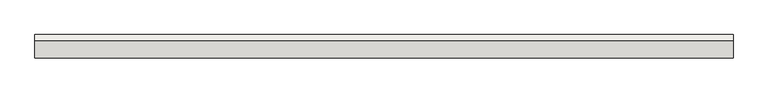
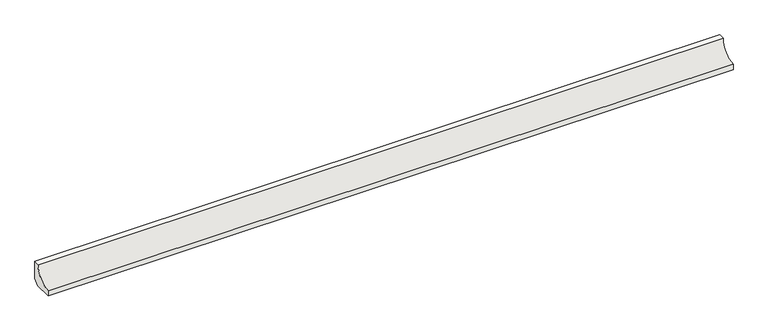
"""IFC4 building model written with IfcOpenShell, lengths in millimetres: slab geometry, ROSA GRES_188 : Pieza 188_Serena_Ocra_Anti-Slip."""

from ifc_helpers import new_model, si_unit, point, frame, frame_2d, origin, place, context, project, spatial, polyline, circle_curve, trimmed, segment, composite_curve, outline, extrude, source, transform, mapped, element, save


def slab_60c810ee(model_context):
    return source(origin(), model_context, "Body", "SweptSolid", [
        extrude(outline(composite_curve([segment(polyline([(0.0, 8.7114978), (-8.7114978, 0.0), (-40.0, 0.0), (-40.0, 9.9734114)]), True, "CONTINUOUS"), segment(trimmed(circle_curve(frame_2d((-39.9955547, 39.9955547)), 30.0221435), [point((-40.0, 9.9734114))], [point((-9.9734114, 40.0))], True, "CARTESIAN"), True, "CONTINUOUS"), segment(polyline([(-9.9734114, 40.0), (0.0, 40.0), (0.0, 8.7114978)]), True, "CONTINUOUS")], self_intersect=False)), frame((0.0, 0.0, 0.0), z_axis=(1.0, 0.0, 0.0), x_axis=(0.0, 1.0, 0.0)), (0.0, 0.0, 1.0), 1200.0),
    ])


if __name__ == "__main__":
    model = new_model("IFC4")
    model_context = context("Model", 3, world=origin())
    ifc_project = project(units=[si_unit("LENGTHUNIT", "METRE", prefix="MILLI")], contexts=[model_context])
    site = spatial("IfcSite", under=ifc_project)
    building = spatial("IfcBuilding", under=site)
    placement = place(None, origin())
    slab_shape = slab_60c810ee(model_context)
    element("IfcSlab", 1, ObjectType="ROSA GRES_188 : Pieza 188_Serena_Ocra_Anti-Slip", at=placement, inside=building, context=model_context, shape_type="MappedRepresentation", body=[
        mapped(slab_shape, transform((0.0, 0.0, 0.0), x_axis=(1.0, 0.0, 0.0), y_axis=(0.0, 1.0, 0.0), z_axis=(0.0, 0.0, 1.0))),
    ])
    save(model, "model.ifc")
